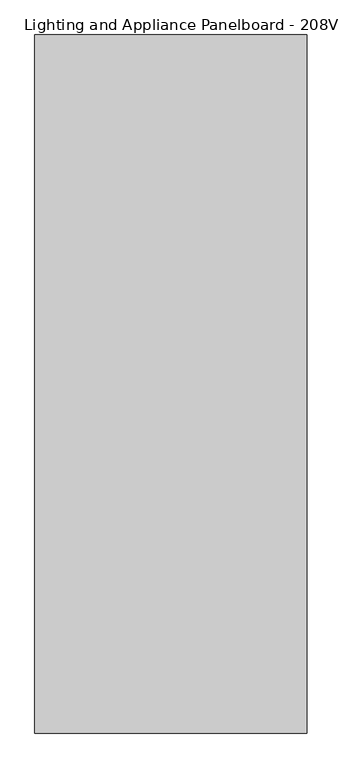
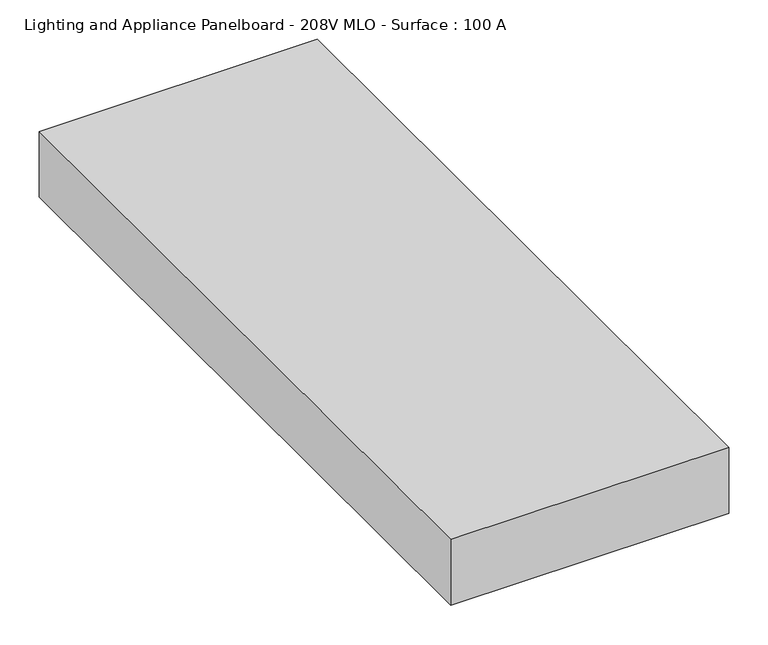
"""IFC4 building model written with IfcOpenShell, lengths in millimetres: proxy geometry, Lighting and Appliance Panelboard - 208V MLO - Surface : 100 A."""

from ifc_helpers import new_model, si_unit, origin, origin_with_axes, place, context, project, spatial, polyline, outline, extrude, source, transform, mapped, element, save


def lighting_and_appliance_panelboard_208v_mlo_surface_100_a_d3afedde(model_context):
    return source(origin(), model_context, "Body", "SweptSolid", [
        extrude(outline(polyline([(203.2, 520.7), (203.2, -520.7), (-203.2, -520.7), (-203.2, 520.7), (203.2, 520.7)])), origin_with_axes(), (0.0, 0.0, 1.0), 101.6),
    ])


if __name__ == "__main__":
    model = new_model("IFC4")
    model_context = context("Model", 3, world=origin())
    ifc_project = project(units=[si_unit("LENGTHUNIT", "METRE", prefix="MILLI")], contexts=[model_context])
    site = spatial("IfcSite", under=ifc_project)
    building = spatial("IfcBuilding", under=site)
    placement = place(None, origin())
    lighting_and_appliance_panelboard_208v_mlo_surface_100_a_shape = lighting_and_appliance_panelboard_208v_mlo_surface_100_a_d3afedde(model_context)
    element("IfcBuildingElementProxy", 1, Name="Lighting and Appliance Panelboard - 208V MLO - Surface : 100 A", ObjectType="Lighting and Appliance Panelboard - 208V MLO - Surface : 100 A", at=placement, inside=building, context=model_context, shape_type="MappedRepresentation", body=[
        mapped(lighting_and_appliance_panelboard_208v_mlo_surface_100_a_shape, transform((0.0, 0.0, 0.0), x_axis=(1.0, 0.0, 0.0), y_axis=(0.0, 1.0, 0.0), z_axis=(0.0, 0.0, 1.0))),
    ])
    save(model, "model.ifc")
